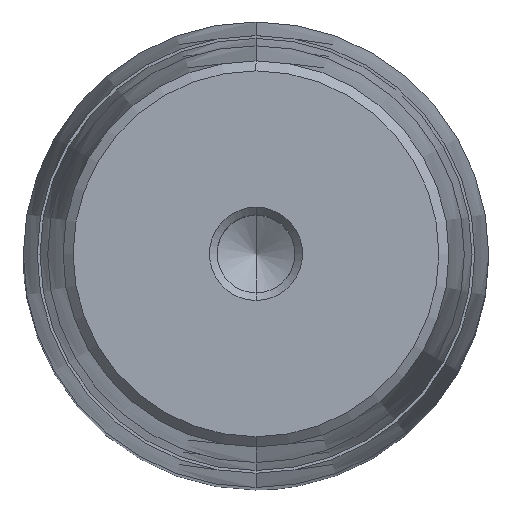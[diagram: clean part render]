
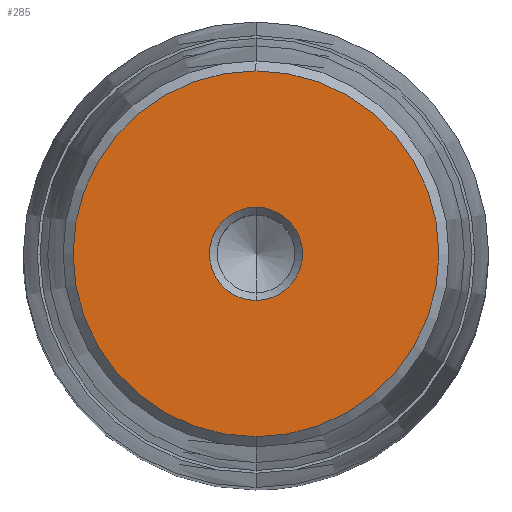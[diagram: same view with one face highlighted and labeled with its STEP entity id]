
A CAD part, top view. The second image highlights one B-rep face of the part: STEP entity #285.
In plain terms, the highlighted planar face has unit normal (0, 0, 1).
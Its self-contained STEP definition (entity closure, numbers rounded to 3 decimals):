
#164=CARTESIAN_POINT('Axis2P3D Location',(0.,0.,58.)) ;
#168=CARTESIAN_POINT('Vertex',(5.,0.,58.)) ;
#170=CARTESIAN_POINT('Vertex',(0.,-5.,58.)) ;
#173=CARTESIAN_POINT('Axis2P3D Location',(0.,0.,58.)) ;
#177=CARTESIAN_POINT('Vertex',(0.,5.,58.)) ;
#228=CARTESIAN_POINT('Axis2P3D Location',(0.,5.,58.)) ;
#233=CARTESIAN_POINT('Axis2P3D Location',(0.,0.,58.)) ;
#237=CARTESIAN_POINT('Vertex',(0.,19.65,58.)) ;
#239=CARTESIAN_POINT('Vertex',(19.65,0.,58.)) ;
#242=CARTESIAN_POINT('Axis2P3D Location',(0.,0.,58.)) ;
#246=CARTESIAN_POINT('Vertex',(-19.65,0.,58.)) ;
#249=CARTESIAN_POINT('Axis2P3D Location',(0.,0.,58.)) ;
#253=CARTESIAN_POINT('Vertex',(0.,-19.65,58.)) ;
#256=CARTESIAN_POINT('Axis2P3D Location',(0.,0.,58.)) ;
#267=CARTESIAN_POINT('Axis2P3D Location',(0.,0.,58.)) ;
#271=CARTESIAN_POINT('Vertex',(-5.,0.,58.)) ;
#274=CARTESIAN_POINT('Axis2P3D Location',(0.,0.,58.)) ;
#165=DIRECTION('Axis2P3D Direction',(-0.,0.,1.)) ;
#174=DIRECTION('Axis2P3D Direction',(-0.,0.,1.)) ;
#229=DIRECTION('Axis2P3D Direction',(0.,0.,-1.)) ;
#230=DIRECTION('Axis2P3D XDirection',(0.,1.,0.)) ;
#234=DIRECTION('Axis2P3D Direction',(0.,0.,-1.)) ;
#243=DIRECTION('Axis2P3D Direction',(0.,0.,-1.)) ;
#250=DIRECTION('Axis2P3D Direction',(0.,0.,-1.)) ;
#257=DIRECTION('Axis2P3D Direction',(0.,0.,-1.)) ;
#268=DIRECTION('Axis2P3D Direction',(0.,0.,-1.)) ;
#275=DIRECTION('Axis2P3D Direction',(0.,0.,-1.)) ;
#166=AXIS2_PLACEMENT_3D('Circle Axis2P3D',#164,#165,$) ;
#175=AXIS2_PLACEMENT_3D('Circle Axis2P3D',#173,#174,$) ;
#231=AXIS2_PLACEMENT_3D('Plane Axis2P3D',#228,#229,#230) ;
#235=AXIS2_PLACEMENT_3D('Circle Axis2P3D',#233,#234,$) ;
#244=AXIS2_PLACEMENT_3D('Circle Axis2P3D',#242,#243,$) ;
#251=AXIS2_PLACEMENT_3D('Circle Axis2P3D',#249,#250,$) ;
#258=AXIS2_PLACEMENT_3D('Circle Axis2P3D',#256,#257,$) ;
#269=AXIS2_PLACEMENT_3D('Circle Axis2P3D',#267,#268,$) ;
#276=AXIS2_PLACEMENT_3D('Circle Axis2P3D',#274,#275,$) ;
#262=ORIENTED_EDGE('',*,*,#241,.F.) ;
#263=ORIENTED_EDGE('',*,*,#248,.F.) ;
#264=ORIENTED_EDGE('',*,*,#255,.F.) ;
#265=ORIENTED_EDGE('',*,*,#260,.F.) ;
#280=ORIENTED_EDGE('',*,*,#172,.T.) ;
#281=ORIENTED_EDGE('',*,*,#273,.T.) ;
#282=ORIENTED_EDGE('',*,*,#278,.T.) ;
#283=ORIENTED_EDGE('',*,*,#179,.T.) ;
#284=FACE_BOUND('',#279,.T.) ;
#285=ADVANCED_FACE('722-50x180x220',(#266,#284),#232,.F.) ;
#167=CIRCLE('generated circle',#166,5.) ;
#176=CIRCLE('generated circle',#175,5.) ;
#236=CIRCLE('generated circle',#235,19.65) ;
#245=CIRCLE('generated circle',#244,19.65) ;
#252=CIRCLE('generated circle',#251,19.65) ;
#259=CIRCLE('generated circle',#258,19.65) ;
#270=CIRCLE('generated circle',#269,5.) ;
#277=CIRCLE('generated circle',#276,5.) ;
#172=EDGE_CURVE('',#169,#171,#167,.F.) ;
#179=EDGE_CURVE('',#178,#169,#176,.F.) ;
#241=EDGE_CURVE('',#238,#240,#236,.T.) ;
#248=EDGE_CURVE('',#247,#238,#245,.T.) ;
#255=EDGE_CURVE('',#254,#247,#252,.T.) ;
#260=EDGE_CURVE('',#240,#254,#259,.T.) ;
#273=EDGE_CURVE('',#171,#272,#270,.T.) ;
#278=EDGE_CURVE('',#272,#178,#277,.T.) ;
#261=EDGE_LOOP('',(#262,#263,#264,#265)) ;
#279=EDGE_LOOP('',(#280,#281,#282,#283)) ;
#266=FACE_OUTER_BOUND('',#261,.T.) ;
#232=PLANE('Plane',#231) ;
#169=VERTEX_POINT('',#168) ;
#171=VERTEX_POINT('',#170) ;
#178=VERTEX_POINT('',#177) ;
#238=VERTEX_POINT('',#237) ;
#240=VERTEX_POINT('',#239) ;
#247=VERTEX_POINT('',#246) ;
#254=VERTEX_POINT('',#253) ;
#272=VERTEX_POINT('',#271) ;
